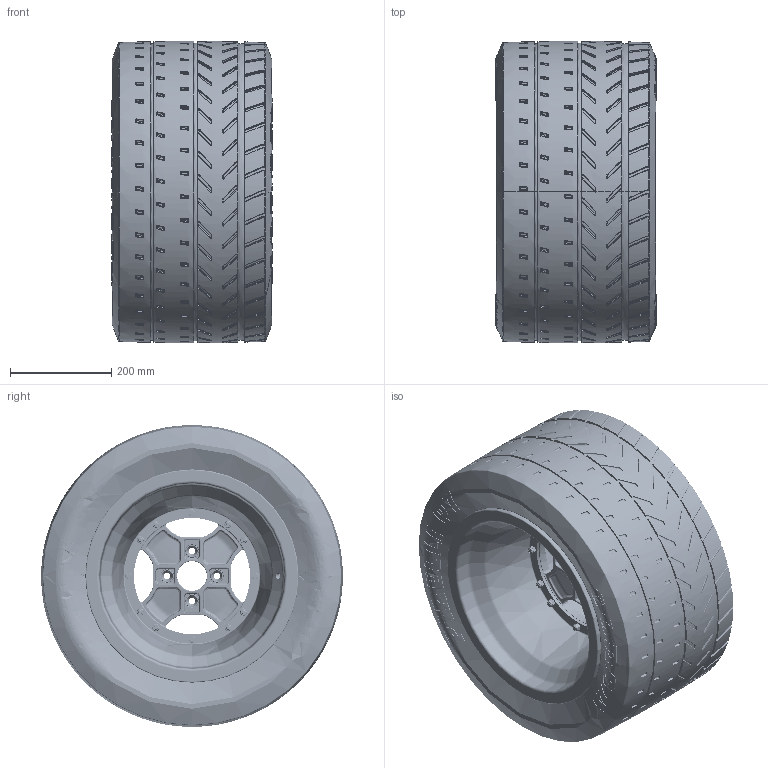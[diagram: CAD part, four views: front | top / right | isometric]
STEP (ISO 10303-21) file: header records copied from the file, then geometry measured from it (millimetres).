
FILE_DESCRIPTION (( 'STEP AP203' ), '1' );
FILE_NAME ('Fiat 131 abarth gr4 cromodora rear wheels 11x15.STEP', '2025-03-08T07:54:53', ( '' ), ( '' ), 'SwSTEP 2.0', 'SolidWorks 2019', '' );
FILE_SCHEMA (( 'CONFIG_CONTROL_DESIGN' ));
Length unit declared in the file: millimetre
Products named in the file (7): Fiat 131 abarth gr4 cromodora wheels bolt insert; Fiat 131 abarth gr4 cromodora wheels rear tyre 305-35R15; Fiat 131 abarth gr4 cromodora wheels top piece 6x15 lip; torque nut 01_iso_ISO 7040-M8-N; Fiat 131 abarth gr4 cromodora rear wheels 11x15; Fiat 131 abarth gr4 cromodora wheels top piece 5x15 barrel; hex bolt gradeb_iso_ISO 4015 - M8 x 35 x 22-N
Assembly tree (31 placements, depth 2):
  Fiat 131 abarth gr4 cromodora rear wheels 11x15
    Fiat 131 abarth gr4 cromodora wheels top piece 5x15 barrel
    hex bolt gradeb_iso_ISO 4015 - M8 x 35 x 22-N  x12
    Fiat 131 abarth gr4 cromodora wheels bolt insert  x4
    Fiat 131 abarth gr4 cromodora wheels rear tyre 305-35R15
    Fiat 131 abarth gr4 cromodora wheels top piece 6x15 lip
    torque nut 01_iso_ISO 7040-M8-N  x12
Bounding box: 317 x 595.4 x 595.4 mm (x, y, z)
Volume: 15026005 mm3; surface area: 2783109.6 mm2
Topology: 31 solids, 31 shells, 7227 faces, 18197 edges, 10701 vertices
Faces by surface type: bspline 2326, cylinder 1736, plane 1585, torus 957, cone 383, sphere 240
Entity records: 280393 total; most frequent: CARTESIAN_POINT 146773, ORIENTED_EDGE 32450, DIRECTION 20817, EDGE_CURVE 16225, VERTEX_POINT 9851, AXIS2_PLACEMENT_3D 8824, B_SPLINE_CURVE_WITH_KNOTS 8474, EDGE_LOOP 6886
